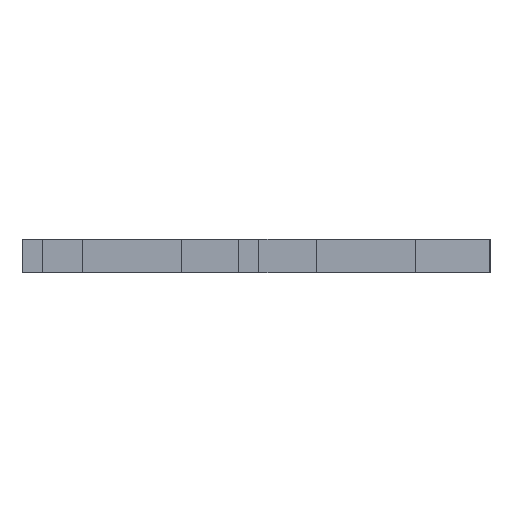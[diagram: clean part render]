
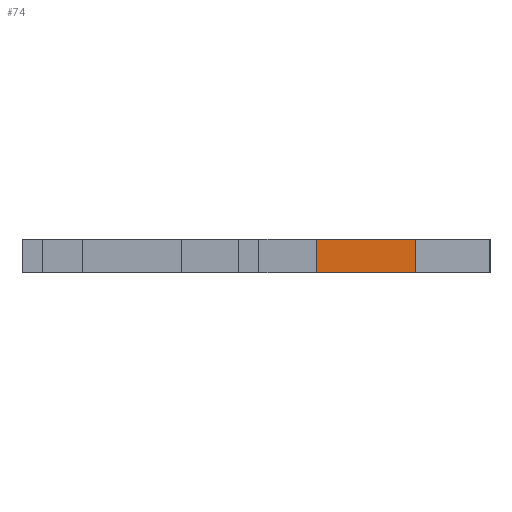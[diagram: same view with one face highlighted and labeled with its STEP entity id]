
A CAD part, left-side view. The second image highlights one B-rep face of the part: STEP entity #74.
In plain terms, the highlighted planar face has unit normal (-1, 0, 0).
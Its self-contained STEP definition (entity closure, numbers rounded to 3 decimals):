
#74=ADVANCED_FACE('',(#208),#2364,.T.);
#208=FACE_OUTER_BOUND('',#342,.T.);
#342=EDGE_LOOP('',(#601,#602,#603,#604));
#601=ORIENTED_EDGE('',*,*,#1368,.T.);
#602=ORIENTED_EDGE('',*,*,#1364,.T.);
#603=ORIENTED_EDGE('',*,*,#1369,.F.);
#604=ORIENTED_EDGE('',*,*,#1366,.F.);
#1364=EDGE_CURVE('',#2127,#2128,#1804,.T.);
#1366=EDGE_CURVE('',#2129,#2130,#1806,.T.);
#1368=EDGE_CURVE('',#2129,#2127,#1808,.T.);
#1369=EDGE_CURVE('',#2130,#2128,#1809,.T.);
#1804=B_SPLINE_CURVE_WITH_KNOTS('',1,(#3522,#3523),.UNSPECIFIED.,.F.,.F.,
(2,2),(0.,5.),.UNSPECIFIED.);
#1806=B_SPLINE_CURVE_WITH_KNOTS('',1,(#3526,#3527),.UNSPECIFIED.,.F.,.F.,
(2,2),(0.,5.),.UNSPECIFIED.);
#1808=B_SPLINE_CURVE_WITH_KNOTS('',1,(#3530,#3531),.UNSPECIFIED.,.F.,.F.,
(2,2),(24.888,39.775),.UNSPECIFIED.);
#1809=B_SPLINE_CURVE_WITH_KNOTS('',1,(#3532,#3533),.UNSPECIFIED.,.F.,.F.,
(2,2),(24.888,39.775),.UNSPECIFIED.);
#2127=VERTEX_POINT('',#3098);
#2128=VERTEX_POINT('',#3099);
#2129=VERTEX_POINT('',#3100);
#2130=VERTEX_POINT('',#3101);
#2364=PLANE('',#2496);
#2496=AXIS2_PLACEMENT_3D('',#2744,#2611,$);
#2611=DIRECTION('',(-1.,0.,0.));
#2744=CARTESIAN_POINT('',(-191.,168.888,56.));
#3098=CARTESIAN_POINT('',(-191.,154.,56.));
#3099=CARTESIAN_POINT('',(-191.,154.,61.));
#3100=CARTESIAN_POINT('',(-191.,168.888,56.));
#3101=CARTESIAN_POINT('',(-191.,168.888,61.));
#3522=CARTESIAN_POINT('',(-191.,154.,56.));
#3523=CARTESIAN_POINT('',(-191.,154.,61.));
#3526=CARTESIAN_POINT('',(-191.,168.888,56.));
#3527=CARTESIAN_POINT('',(-191.,168.888,61.));
#3530=CARTESIAN_POINT('',(-191.,168.888,56.));
#3531=CARTESIAN_POINT('',(-191.,154.,56.));
#3532=CARTESIAN_POINT('',(-191.,168.888,61.));
#3533=CARTESIAN_POINT('',(-191.,154.,61.));
